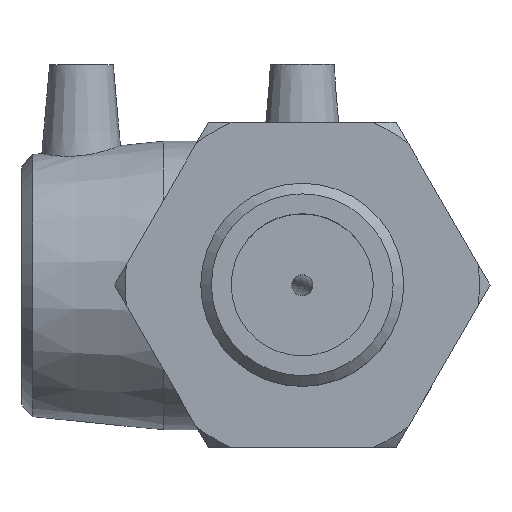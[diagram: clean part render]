
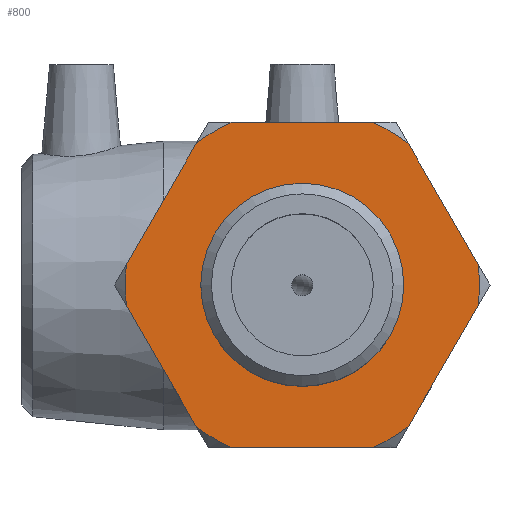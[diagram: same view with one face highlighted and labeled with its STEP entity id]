
A CAD part, top view. The second image highlights one B-rep face of the part: STEP entity #800.
In plain terms, the highlighted planar face has unit normal (0, 0, 1).
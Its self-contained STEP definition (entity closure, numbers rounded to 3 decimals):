
#11=LINE('',#1377,#29);
#15=LINE('',#1401,#33);
#18=LINE('',#1423,#36);
#21=LINE('',#1445,#39);
#26=LINE('',#1482,#44);
#28=LINE('',#1501,#46);
#29=VECTOR('',#1070,33.085);
#33=VECTOR('',#1076,33.085);
#36=VECTOR('',#1081,33.085);
#39=VECTOR('',#1086,33.085);
#44=VECTOR('',#1093,33.085);
#46=VECTOR('',#1097,33.085);
#123=PLANE('',#895);
#157=FACE_BOUND('',#295,.T.);
#205=FACE_OUTER_BOUND('',#294,.T.);
#294=EDGE_LOOP('',(#670,#671,#672,#673,#674,#675,#676,#677,#678,#679,#680,
#681));
#295=EDGE_LOOP('',(#682));
#356=CIRCLE('',#896,41.7);
#357=CIRCLE('',#897,41.7);
#358=CIRCLE('',#898,41.7);
#359=CIRCLE('',#899,41.7);
#360=CIRCLE('',#900,41.7);
#361=CIRCLE('',#901,41.7);
#362=CIRCLE('',#902,23.902);
#409=VERTEX_POINT('',#1371);
#411=VERTEX_POINT('',#1376);
#417=VERTEX_POINT('',#1396);
#418=VERTEX_POINT('',#1400);
#423=VERTEX_POINT('',#1418);
#424=VERTEX_POINT('',#1422);
#429=VERTEX_POINT('',#1440);
#430=VERTEX_POINT('',#1444);
#436=VERTEX_POINT('',#1463);
#440=VERTEX_POINT('',#1478);
#441=VERTEX_POINT('',#1484);
#444=VERTEX_POINT('',#1497);
#445=VERTEX_POINT('',#1509);
#490=EDGE_CURVE('',#411,#409,#11,.T.);
#498=EDGE_CURVE('',#418,#417,#15,.T.);
#505=EDGE_CURVE('',#424,#423,#18,.T.);
#512=EDGE_CURVE('',#430,#429,#21,.T.);
#524=EDGE_CURVE('',#436,#440,#26,.T.);
#530=EDGE_CURVE('',#441,#444,#28,.T.);
#531=EDGE_CURVE('',#436,#444,#356,.T.);
#532=EDGE_CURVE('',#430,#440,#357,.T.);
#533=EDGE_CURVE('',#424,#429,#358,.T.);
#534=EDGE_CURVE('',#418,#423,#359,.T.);
#535=EDGE_CURVE('',#411,#417,#360,.T.);
#536=EDGE_CURVE('',#441,#409,#361,.T.);
#537=EDGE_CURVE('',#445,#445,#362,.T.);
#670=ORIENTED_EDGE('',*,*,#530,.T.);
#671=ORIENTED_EDGE('',*,*,#531,.F.);
#672=ORIENTED_EDGE('',*,*,#524,.T.);
#673=ORIENTED_EDGE('',*,*,#532,.F.);
#674=ORIENTED_EDGE('',*,*,#512,.T.);
#675=ORIENTED_EDGE('',*,*,#533,.F.);
#676=ORIENTED_EDGE('',*,*,#505,.T.);
#677=ORIENTED_EDGE('',*,*,#534,.F.);
#678=ORIENTED_EDGE('',*,*,#498,.T.);
#679=ORIENTED_EDGE('',*,*,#535,.F.);
#680=ORIENTED_EDGE('',*,*,#490,.T.);
#681=ORIENTED_EDGE('',*,*,#536,.F.);
#682=ORIENTED_EDGE('',*,*,#537,.T.);
#800=ADVANCED_FACE('',(#205,#157),#123,.T.);
#895=AXIS2_PLACEMENT_3D('',#1502,#1098,#1099);
#896=AXIS2_PLACEMENT_3D('',#1503,#1100,#1101);
#897=AXIS2_PLACEMENT_3D('',#1504,#1102,#1103);
#898=AXIS2_PLACEMENT_3D('',#1505,#1104,#1105);
#899=AXIS2_PLACEMENT_3D('',#1506,#1106,#1107);
#900=AXIS2_PLACEMENT_3D('',#1507,#1108,#1109);
#901=AXIS2_PLACEMENT_3D('',#1508,#1110,#1111);
#902=AXIS2_PLACEMENT_3D('',#1510,#1112,#1113);
#1070=DIRECTION('',(-0.5,0.866,0.));
#1076=DIRECTION('',(0.5,0.866,0.));
#1081=DIRECTION('',(1.,0.,0.));
#1086=DIRECTION('',(0.5,-0.866,0.));
#1093=DIRECTION('',(-0.5,-0.866,0.));
#1097=DIRECTION('',(-1.,0.,0.));
#1098=DIRECTION('center_axis',(0.,0.,1.));
#1099=DIRECTION('ref_axis',(1.,0.,0.));
#1100=DIRECTION('center_axis',(0.,0.,-1.));
#1101=DIRECTION('ref_axis',(1.,0.,0.));
#1102=DIRECTION('center_axis',(0.,0.,-1.));
#1103=DIRECTION('ref_axis',(1.,0.,0.));
#1104=DIRECTION('center_axis',(0.,0.,-1.));
#1105=DIRECTION('ref_axis',(1.,0.,0.));
#1106=DIRECTION('center_axis',(0.,0.,-1.));
#1107=DIRECTION('ref_axis',(1.,0.,0.));
#1108=DIRECTION('center_axis',(0.,0.,-1.));
#1109=DIRECTION('ref_axis',(1.,0.,0.));
#1110=DIRECTION('center_axis',(0.,0.,-1.));
#1111=DIRECTION('ref_axis',(1.,0.,0.));
#1112=DIRECTION('center_axis',(0.,0.,-1.));
#1113=DIRECTION('ref_axis',(1.,0.,0.));
#1371=CARTESIAN_POINT('',(24.879,33.466,78.1));
#1376=CARTESIAN_POINT('',(41.421,4.813,78.1));
#1377=CARTESIAN_POINT('',(22.1,38.278,78.1));
#1396=CARTESIAN_POINT('',(41.421,-4.813,78.1));
#1400=CARTESIAN_POINT('',(24.879,-33.466,78.1));
#1401=CARTESIAN_POINT('',(33.15,-19.139,78.1));
#1418=CARTESIAN_POINT('',(16.543,-38.278,78.1));
#1422=CARTESIAN_POINT('',(-16.543,-38.278,78.1));
#1423=CARTESIAN_POINT('',(-11.05,-38.278,78.1));
#1440=CARTESIAN_POINT('',(-24.879,-33.466,78.1));
#1444=CARTESIAN_POINT('',(-41.421,-4.813,78.1));
#1445=CARTESIAN_POINT('',(-33.15,-19.139,78.1));
#1463=CARTESIAN_POINT('',(-24.879,33.466,78.1));
#1478=CARTESIAN_POINT('',(-41.421,4.813,78.1));
#1482=CARTESIAN_POINT('',(-44.2,0.,78.1));
#1484=CARTESIAN_POINT('',(16.543,38.278,78.1));
#1497=CARTESIAN_POINT('',(-16.543,38.278,78.1));
#1501=CARTESIAN_POINT('',(-33.15,38.278,78.1));
#1502=CARTESIAN_POINT('Origin',(-44.2,0.,78.1));
#1503=CARTESIAN_POINT('Origin',(0.,0.,78.1));
#1504=CARTESIAN_POINT('Origin',(0.,0.,78.1));
#1505=CARTESIAN_POINT('Origin',(0.,0.,78.1));
#1506=CARTESIAN_POINT('Origin',(0.,0.,78.1));
#1507=CARTESIAN_POINT('Origin',(0.,0.,78.1));
#1508=CARTESIAN_POINT('Origin',(0.,0.,78.1));
#1509=CARTESIAN_POINT('',(-23.902,0.,78.1));
#1510=CARTESIAN_POINT('Origin',(0.,0.,78.1));
